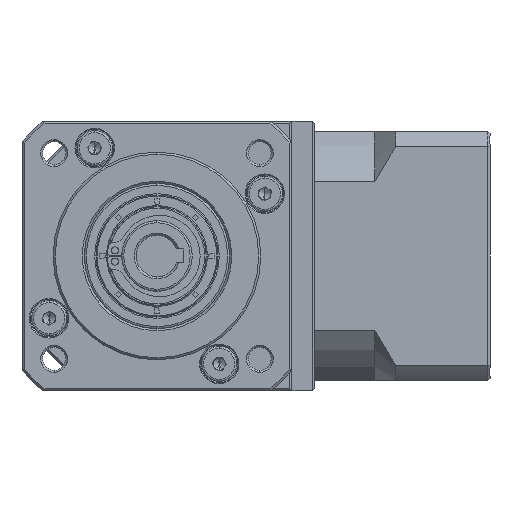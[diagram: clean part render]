
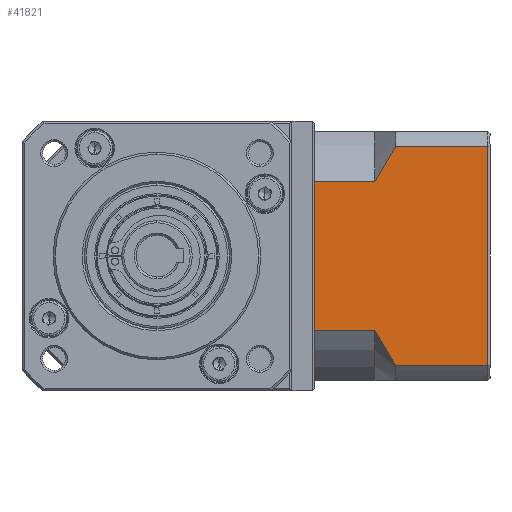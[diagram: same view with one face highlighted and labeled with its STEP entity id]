
A CAD part, left-side view. The second image highlights one B-rep face of the part: STEP entity #41821.
In plain terms, the highlighted planar face has unit normal (-1, 0, 0).
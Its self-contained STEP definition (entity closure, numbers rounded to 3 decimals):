
#2861 = ORIENTED_EDGE ( 'NONE', *, *, #89533, .T. ) ;
#9636 = CARTESIAN_POINT ( 'NONE',  ( -19.598, -75.787, -101.374 ) ) ;
#9917 = VERTEX_POINT ( 'NONE', #36838 ) ;
#11587 = CARTESIAN_POINT ( 'NONE',  ( -19.598, -75.787, -145.859 ) ) ;
#14399 = ORIENTED_EDGE ( 'NONE', *, *, #97957, .T. ) ;
#14913 = LINE ( 'NONE', #152393, #47354 ) ;
#16428 = CARTESIAN_POINT ( 'NONE',  ( -19.598, -75.787, -137.429 ) ) ;
#19652 = CARTESIAN_POINT ( 'NONE',  ( -19.598, -80.787, -145.859 ) ) ;
#20509 = ORIENTED_EDGE ( 'NONE', *, *, #36424, .T. ) ;
#27466 = CARTESIAN_POINT ( 'NONE',  ( -19.598, -102.987, -145.859 ) ) ;
#27488 = ORIENTED_EDGE ( 'NONE', *, *, #89664, .F. ) ;
#28662 = CARTESIAN_POINT ( 'NONE',  ( -19.598, -76.538, -138.886 ) ) ;
#30601 = CARTESIAN_POINT ( 'NONE',  ( -19.598, -75.787, -92.944 ) ) ;
#32197 = B_SPLINE_CURVE_WITH_KNOTS ( 'NONE', 3,
 ( #16428, #28662, #113960, #41018, #126236, #53252 ),
 .UNSPECIFIED., .F., .F.,
 ( 4, 2, 4 ),
 ( 0.1, 0.104, 0.109 ),
 .UNSPECIFIED. ) ;
#35926 = CARTESIAN_POINT ( 'NONE',  ( -19.598, -103.487, -149.401 ) ) ;
#36144 = DIRECTION ( 'NONE',  ( 0., 1., 0. ) ) ;
#36424 = EDGE_CURVE ( 'NONE', #41522, #88403, #81034, .T. ) ;
#36838 = CARTESIAN_POINT ( 'NONE',  ( -19.598, -75.787, -101.374 ) ) ;
#41018 = CARTESIAN_POINT ( 'NONE',  ( -19.598, -79.012, -143.116 ) ) ;
#41522 = VERTEX_POINT ( 'NONE', #27466 ) ;
#41821 = ADVANCED_FACE ( 'NONE', ( #130018 ), #47116, .F. ) ;
#42958 = DIRECTION ( 'NONE',  ( 0., -1., 0. ) ) ;
#44771 = VECTOR ( 'NONE', #63235, 1000. ) ;
#45913 = CARTESIAN_POINT ( 'NONE',  ( -19.598, -79.888, -94.304 ) ) ;
#46281 = VECTOR ( 'NONE', #89282, 1000. ) ;
#47116 = PLANE ( 'NONE',  #141197 ) ;
#47354 = VECTOR ( 'NONE', #67024, 1000. ) ;
#48171 = DIRECTION ( 'NONE',  ( 0., 1., 0. ) ) ;
#51017 = CARTESIAN_POINT ( 'NONE',  ( -19.598, -102.987, -149.401 ) ) ;
#53062 = CARTESIAN_POINT ( 'NONE',  ( -19.598, -61.287, -149.401 ) ) ;
#53252 = CARTESIAN_POINT ( 'NONE',  ( -19.598, -80.787, -145.859 ) ) ;
#58166 = CARTESIAN_POINT ( 'NONE',  ( -19.598, -80.787, -92.944 ) ) ;
#58439 = ORIENTED_EDGE ( 'NONE', *, *, #86156, .T. ) ;
#58909 = B_SPLINE_CURVE_WITH_KNOTS ( 'NONE', 3,
 ( #58166, #45913, #70418, #155769, #82696, #9636 ),
 .UNSPECIFIED., .F., .F.,
 ( 4, 2, 4 ),
 ( 0.052, 0.057, 0.062 ),
 .UNSPECIFIED. ) ;
#59074 = CARTESIAN_POINT ( 'NONE',  ( -19.598, -102.987, -92.944 ) ) ;
#63235 = DIRECTION ( 'NONE',  ( 0., 0., 1. ) ) ;
#65335 = VECTOR ( 'NONE', #42958, 1000. ) ;
#67024 = DIRECTION ( 'NONE',  ( 0., -1., 0. ) ) ;
#69613 = VERTEX_POINT ( 'NONE', #87198 ) ;
#70418 = CARTESIAN_POINT ( 'NONE',  ( -19.598, -79.015, -95.682 ) ) ;
#72858 = LINE ( 'NONE', #80421, #137717 ) ;
#75239 = VERTEX_POINT ( 'NONE', #109033 ) ;
#75501 = ORIENTED_EDGE ( 'NONE', *, *, #82994, .F. ) ;
#78616 = VECTOR ( 'NONE', #36144, 1000. ) ;
#79388 = VERTEX_POINT ( 'NONE', #137075 ) ;
#80421 = CARTESIAN_POINT ( 'NONE',  ( -19.598, -75.787, -137.429 ) ) ;
#80799 = EDGE_LOOP ( 'NONE', ( #90293, #20509, #75501, #14399, #27488, #58439, #80898, #2861 ) ) ;
#80898 = ORIENTED_EDGE ( 'NONE', *, *, #142089, .F. ) ;
#81034 = LINE ( 'NONE', #51017, #44771 ) ;
#82543 = LINE ( 'NONE', #53062, #46281 ) ;
#82696 = CARTESIAN_POINT ( 'NONE',  ( -19.598, -76.535, -99.922 ) ) ;
#82994 = EDGE_CURVE ( 'NONE', #69613, #88403, #97766, .T. ) ;
#86156 = EDGE_CURVE ( 'NONE', #90555, #75239, #82543, .T. ) ;
#87198 = CARTESIAN_POINT ( 'NONE',  ( -19.598, -80.787, -92.944 ) ) ;
#88403 = VERTEX_POINT ( 'NONE', #59074 ) ;
#89282 = DIRECTION ( 'NONE',  ( 0., 0., -1. ) ) ;
#89533 = EDGE_CURVE ( 'NONE', #79388, #92322, #32197, .T. ) ;
#89664 = EDGE_CURVE ( 'NONE', #90555, #9917, #14913, .T. ) ;
#90293 = ORIENTED_EDGE ( 'NONE', *, *, #147092, .F. ) ;
#90555 = VERTEX_POINT ( 'NONE', #107772 ) ;
#92322 = VERTEX_POINT ( 'NONE', #19652 ) ;
#97766 = LINE ( 'NONE', #30601, #65335 ) ;
#97957 = EDGE_CURVE ( 'NONE', #69613, #9917, #58909, .T. ) ;
#104859 = DIRECTION ( 'NONE',  ( 0., 1., 0. ) ) ;
#107772 = CARTESIAN_POINT ( 'NONE',  ( -19.598, -61.287, -101.374 ) ) ;
#109033 = CARTESIAN_POINT ( 'NONE',  ( -19.598, -61.287, -137.429 ) ) ;
#110966 = LINE ( 'NONE', #11587, #78616 ) ;
#113960 = CARTESIAN_POINT ( 'NONE',  ( -19.598, -77.338, -140.311 ) ) ;
#121159 = DIRECTION ( 'NONE',  ( 1., 0., 0. ) ) ;
#126236 = CARTESIAN_POINT ( 'NONE',  ( -19.598, -79.886, -144.496 ) ) ;
#130018 = FACE_OUTER_BOUND ( 'NONE', #80799, .T. ) ;
#137075 = CARTESIAN_POINT ( 'NONE',  ( -19.598, -75.787, -137.429 ) ) ;
#137717 = VECTOR ( 'NONE', #104859, 1000. ) ;
#141197 = AXIS2_PLACEMENT_3D ( 'NONE', #35926, #121159, #48171 ) ;
#142089 = EDGE_CURVE ( 'NONE', #79388, #75239, #72858, .T. ) ;
#147092 = EDGE_CURVE ( 'NONE', #41522, #92322, #110966, .T. ) ;
#152393 = CARTESIAN_POINT ( 'NONE',  ( -19.598, -75.787, -101.374 ) ) ;
#155769 = CARTESIAN_POINT ( 'NONE',  ( -19.598, -77.339, -98.49 ) ) ;
